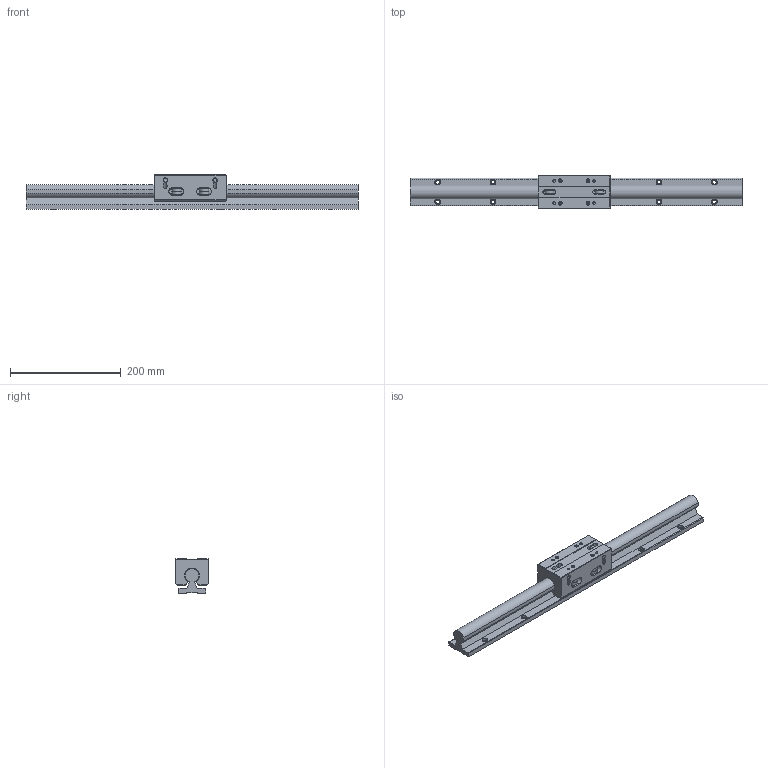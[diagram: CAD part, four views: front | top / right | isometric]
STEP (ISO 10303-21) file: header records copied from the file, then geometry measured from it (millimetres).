
FILE_DESCRIPTION((''),'2;1');
FILE_NAME('D:\製品 (図面)\カタログ用3D\リニアガイド関連\STEP形式\LTGW\LTGW25.stp','2010-06-02T16:07:46',('Tsuchiya'),(''),'Autodesk Inventor 10','Autodesk Inventor 10','');
FILE_SCHEMA(('AUTOMOTIVE_DESIGN { 1 0 10303 214 1 1 1 1 }'));
Length unit declared in the file: millimetre
Products named in the file (3): LTGW25; LTGW251; LTGW252
Assembly tree (2 placements, depth 2):
  LTGW25
    LTGW251
    LTGW252
Bounding box: 600 x 60 x 62 mm (x, y, z)
Volume: 901368.3 mm3; surface area: 174522.4 mm2
Topology: 2 solids, 2 shells, 357 faces, 829 edges, 536 vertices
Faces by surface type: bspline 172, plane 104, cylinder 50, cone 26, torus 5
Full cylindrical faces by diameter (mm): 4.917 x2, 5 x5, 5.5 x5, 6.5 x5, 8 x8, 16 x3, 17 x4
Entity records: 11160 total; most frequent: CARTESIAN_POINT 4310, ORIENTED_EDGE 1274, DIRECTION 1207, EDGE_CURVE 637, EDGE_LOOP 615, VERTEX_POINT 494, AXIS2_PLACEMENT_3D 462, FACE_OUTER_BOUND 357
